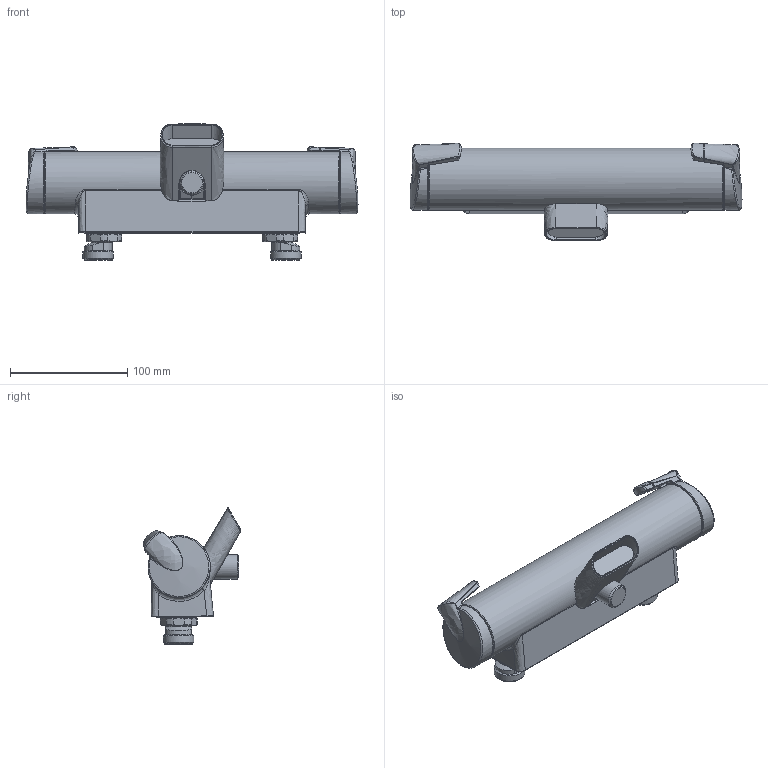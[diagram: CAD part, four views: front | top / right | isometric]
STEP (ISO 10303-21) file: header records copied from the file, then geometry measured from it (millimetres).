
FILE_DESCRIPTION (( 'STEP AP203' ), '1' );
FILE_NAME ('7154.STEP', '2017-03-09T05:58:46', ( '' ), ( '' ), 'SwSTEP 2.0', 'SolidWorks 2016', '' );
FILE_SCHEMA (( 'CONFIG_CONTROL_DESIGN' ));
Length unit declared in the file: millimetre
Products named in the file (1): 7154
Bounding box: 283.13 x 83.38 x 116.18 mm (x, y, z)
Surface area: 88828.2 mm2 (no closed solid volume)
Topology: 0 solids, 5 shells, 410 faces, 1020 edges, 620 vertices
Faces by surface type: bspline 188, cylinder 95, plane 81, cone 22, torus 18, sphere 6
Full cylindrical faces by diameter (mm): 21.05 x1, 22 x2, 24 x2, 26 x2, 47.946 x1, 53 x1
Entity records: 24964 total; most frequent: CARTESIAN_POINT 17061, ORIENTED_EDGE 1928, DIRECTION 1168, EDGE_CURVE 965, VERTEX_POINT 602, AXIS2_PLACEMENT_3D 488, B_SPLINE_CURVE_WITH_KNOTS 459, EDGE_LOOP 451
